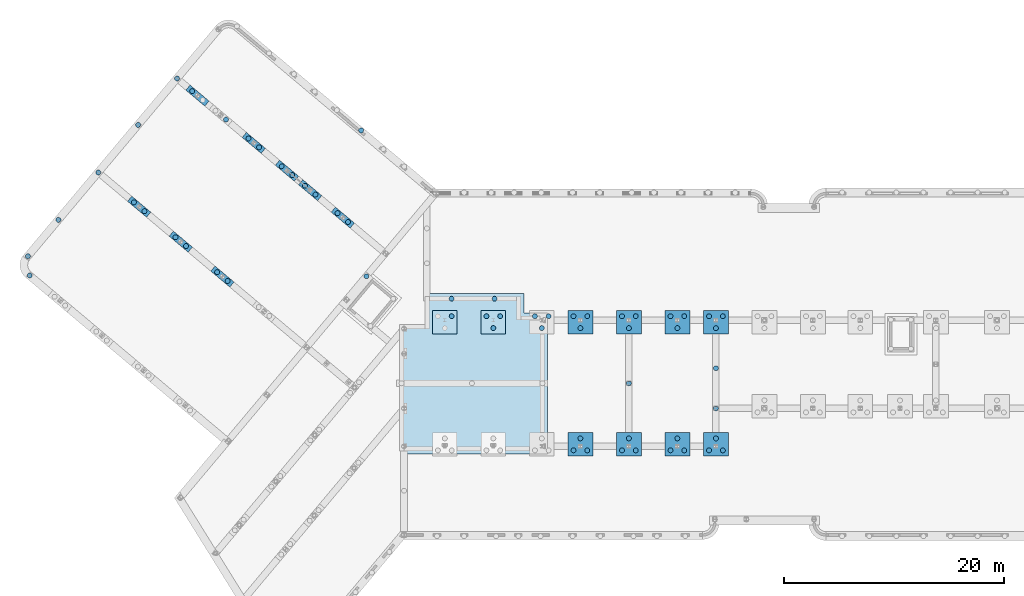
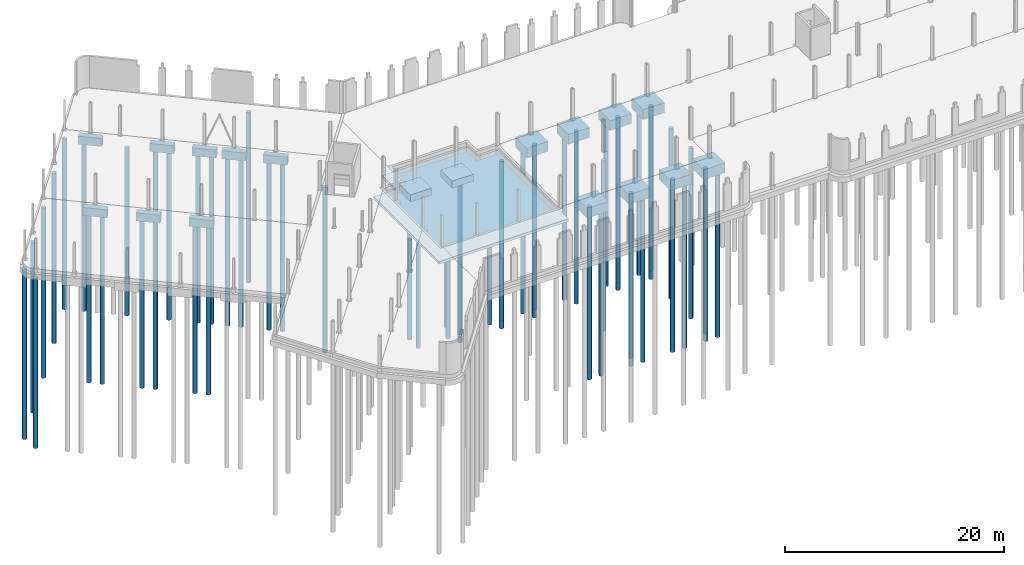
# One storey, part 2 of 26: 60 piles, 19 footings.
"""IFC2X3 building model written with IfcOpenShell, lengths in millimetres."""

from ifc_helpers import new_model, entity, si_unit, converted_unit, derived_unit, direction, frame, frame_2d, origin, origin_2d_with_axis, place, context, subcontext, project, spatial, polyline, rectangle, circle, outline, extrude, source, transform, mapped, material, layer, layer_set, layer_usage, type_object, type_shapes, element, save


model = new_model("IFC2X3")

# Units and contexts
model_context = context("Model", 3, precision=0.01, world=origin(), true_north=direction((6.123031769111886e-17, 1.0)))
body_context = subcontext(model_context, "Body", "Model", "MODEL_VIEW")
ifc_project = project(units=[si_unit("LENGTHUNIT", "METRE", prefix="MILLI"), si_unit("AREAUNIT", "SQUARE_METRE"), si_unit("VOLUMEUNIT", "CUBIC_METRE"), derived_unit("MASSDENSITYUNIT", [(si_unit("MASSUNIT", "GRAM", prefix="KILO"), 1), (si_unit("LENGTHUNIT", "METRE"), -3)]), si_unit("MASSUNIT", "GRAM", prefix="KILO"), converted_unit("PLANEANGLEUNIT", "DEGREE", entity("IfcPlaneAngleMeasure", 0.017453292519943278), si_unit("PLANEANGLEUNIT", "RADIAN"), dimensions=[0, 0, 0, 0, 0, 0, 0])], contexts=[model_context])

# Site, building, storey
site_placement = place(None, origin())
site = spatial("IfcSite", under=ifc_project, at=site_placement, Name="Default", CompositionType="ELEMENT")
building_placement = place(site_placement, origin())
building = spatial("IfcBuilding", under=site, at=building_placement, Name="AT constructie", CompositionType="ELEMENT")
storey_placement = place(building_placement, origin())
storey = spatial("IfcBuildingStorey", under=building, at=storey_placement, Name="00 begane grond", CompositionType="ELEMENT", Elevation=-1.0828671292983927e-12)

# Footings
ifc_material_1 = material(Name="f2_beton ihwg_gen")
ifc_layer = layer(ifc_material_1, 300.0)
ifc_layer_set = layer_set([ifc_layer], Name="Foundation Slab:NLRS_13_SFO_fundatievloer_300_gen_AT")
ifc_layer_usage = layer_usage(ifc_layer_set, "AXIS3", "POSITIVE", 0.0)
type_product_1 = type_object("IfcTypeProduct", Name="NLRS_13_SFO_fundatievloer_300_gen_AT", material=ifc_layer_set)
footing_1_placement = place(storey_placement, origin())
element("IfcFooting", 1, at=footing_1_placement, inside=storey, type_object=type_product_1, material=ifc_layer_usage, Name="Foundation Slab:NLRS_13_SFO_fundatievloer_300_gen_AT", ObjectType="Foundation Slab:NLRS_13_SFO_fundatievloer_300_gen_AT", PredefinedType="NOTDEFINED", context=body_context, shape_type="SweptSolid", body=[
    extrude(outline(polyline([(-9818.749999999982, -6891.249999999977), (2156.2499999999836, -6891.249999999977), (2156.2499999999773, -4546.249999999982), (4706.249999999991, -4546.249999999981), (4706.249999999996, 4653.749999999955), (2956.250000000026, 4653.749999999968), (2956.2500000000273, 6783.7499999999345), (-9818.750000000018, 6783.750000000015), (-9818.749999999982, -6891.249999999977)])), frame((47363.12463111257, 28964.793508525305, -1154.0), z_axis=(0.0, 0.0, -1.0), x_axis=(0.0, 1.0, 0.0)), (0.0, 0.0, 1.0), 300.0),
])
type_product_2 = type_object("IfcTypeProduct", Name="fundatiepoer_gen_lxbxh 2250x600x900", material=ifc_material_1)
shared_shape_1 = source(origin(), body_context, "Body", "SweptSolid", [
    extrude(rectangle(XDim=599.9999999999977, YDim=2249.999999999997, at=frame_2d((-7.105427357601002e-13, 7.958078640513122e-13), x_axis=(1.0, 0.0))), frame((17109.604336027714, 41566.50408462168, -1350.0), z_axis=(0.0, 0.0, 1.0), x_axis=(-0.6427876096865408, -0.7660444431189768, 0.0)), (0.0, 0.0, 1.0), 899.9999999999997),
])
type_shapes(type_product_2, [shared_shape_1])
footing_2_placement = place(storey_placement, origin())
element("IfcFooting", 2, at=footing_2_placement, inside=storey, type_object=type_product_2, material=ifc_material_1, Name="NLRS_16_SFO_fundatiepoer_gen_AT:fundatiepoer_gen_lxbxh 2250x600x900", ObjectType="NLRS_16_SFO_fundatiepoer_gen_AT:fundatiepoer_gen_lxbxh 2250x600x900", PredefinedType="NOTDEFINED", context=body_context, shape_type="MappedRepresentation", body=[
    mapped(shared_shape_1, transform((0.0, 0.0, 0.0), scale=1.0)),
])
type_product_3 = type_object("IfcTypeProduct", Name="fundatiepoer_gen_lxbxh 2250x600x900", material=ifc_material_1)
shared_shape_2 = source(origin(), body_context, "Body", "SweptSolid", [
    extrude(rectangle(XDim=599.9999999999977, YDim=2249.9999999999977, at=frame_2d((-1.3926637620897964e-12, 1.7053025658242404e-12), x_axis=(1.0, 0.0))), frame((20886.203440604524, 38397.561168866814, -1350.0), z_axis=(0.0, 0.0, 1.0), x_axis=(-0.6427876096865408, -0.7660444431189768, 0.0)), (0.0, 0.0, 1.0), 899.9999999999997),
])
type_shapes(type_product_3, [shared_shape_2])
footing_3_placement = place(storey_placement, origin())
element("IfcFooting", 3, at=footing_3_placement, inside=storey, type_object=type_product_3, material=ifc_material_1, Name="NLRS_16_SFO_fundatiepoer_gen_AT:fundatiepoer_gen_lxbxh 2250x600x900", ObjectType="NLRS_16_SFO_fundatiepoer_gen_AT:fundatiepoer_gen_lxbxh 2250x600x900", PredefinedType="NOTDEFINED", context=body_context, shape_type="MappedRepresentation", body=[
    mapped(shared_shape_2, transform((0.0, 0.0, 0.0), scale=1.0)),
])
type_product_4 = type_object("IfcTypeProduct", Name="fundatiepoer_gen_lxbxh 2250x600x900", material=ifc_material_1)
shared_shape_3 = source(origin(), body_context, "Body", "SweptSolid", [
    extrude(rectangle(XDim=600.0000000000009, YDim=2250.000000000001, at=frame_2d((-3.0127011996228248e-12, 3.410605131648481e-13), x_axis=(1.0, 0.0))), frame((24662.80254518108, 35228.61825311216, -1350.0), z_axis=(0.0, 0.0, 1.0), x_axis=(-0.6427876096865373, -0.7660444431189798, 0.0)), (0.0, 0.0, 1.0), 899.9999999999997),
])
type_shapes(type_product_4, [shared_shape_3])
footing_4_placement = place(storey_placement, origin())
element("IfcFooting", 4, at=footing_4_placement, inside=storey, type_object=type_product_4, material=ifc_material_1, Name="NLRS_16_SFO_fundatiepoer_gen_AT:fundatiepoer_gen_lxbxh 2250x600x900", ObjectType="NLRS_16_SFO_fundatiepoer_gen_AT:fundatiepoer_gen_lxbxh 2250x600x900", PredefinedType="NOTDEFINED", context=body_context, shape_type="MappedRepresentation", body=[
    mapped(shared_shape_3, transform((0.0, 0.0, 0.0), scale=1.0)),
])
type_product_5 = type_object("IfcTypeProduct", Name="fundatiepoer_gen_lxbxh 2250x600x900", material=ifc_material_1)
shared_shape_4 = source(origin(), body_context, "Body", "SweptSolid", [
    extrude(rectangle(XDim=599.9999999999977, YDim=2249.999999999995, at=frame_2d((-1.3926637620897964e-12, 1.7053025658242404e-12), x_axis=(1.0, 0.0))), frame((22399.128497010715, 51650.72240585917, -1350.0), z_axis=(0.0, 0.0, 1.0), x_axis=(-0.6427876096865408, -0.7660444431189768, 0.0)), (0.0, 0.0, 1.0), 899.9999999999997),
])
type_shapes(type_product_5, [shared_shape_4])
footing_5_placement = place(storey_placement, origin())
element("IfcFooting", 5, at=footing_5_placement, inside=storey, type_object=type_product_5, material=ifc_material_1, Name="NLRS_16_SFO_fundatiepoer_gen_AT:fundatiepoer_gen_lxbxh 2250x600x900", ObjectType="NLRS_16_SFO_fundatiepoer_gen_AT:fundatiepoer_gen_lxbxh 2250x600x900", PredefinedType="NOTDEFINED", context=body_context, shape_type="MappedRepresentation", body=[
    mapped(shared_shape_4, transform((0.0, 0.0, 0.0), scale=1.0)),
])
type_product_6 = type_object("IfcTypeProduct", Name="fundatiepoer_gen_lxbxh 2250x600x900", material=ifc_material_1)
shared_shape_5 = source(origin(), body_context, "Body", "SweptSolid", [
    extrude(rectangle(XDim=599.9999999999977, YDim=2249.999999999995, at=frame_2d((-1.3926637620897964e-12, 1.7053025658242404e-12), x_axis=(1.0, 0.0))), frame((27512.475154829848, 47360.115111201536, -1350.0), z_axis=(0.0, 0.0, 1.0), x_axis=(-0.6427876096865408, -0.7660444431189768, 0.0)), (0.0, 0.0, 1.0), 899.9999999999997),
])
type_shapes(type_product_6, [shared_shape_5])
footing_6_placement = place(storey_placement, origin())
element("IfcFooting", 6, at=footing_6_placement, inside=storey, type_object=type_product_6, material=ifc_material_1, Name="NLRS_16_SFO_fundatiepoer_gen_AT:fundatiepoer_gen_lxbxh 2250x600x900", ObjectType="NLRS_16_SFO_fundatiepoer_gen_AT:fundatiepoer_gen_lxbxh 2250x600x900", PredefinedType="NOTDEFINED", context=body_context, shape_type="MappedRepresentation", body=[
    mapped(shared_shape_5, transform((0.0, 0.0, 0.0), scale=1.0)),
])
type_product_7 = type_object("IfcTypeProduct", Name="fundatiepoer_gen_lxbxh 2250x600x900", material=ifc_material_1)
shared_shape_6 = source(origin(), body_context, "Body", "SweptSolid", [
    extrude(rectangle(XDim=599.9999999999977, YDim=2249.999999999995, at=frame_2d((-1.3926637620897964e-12, 1.7053025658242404e-12), x_axis=(1.0, 0.0))), frame((30523.028610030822, 44833.960817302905, -1350.0), z_axis=(0.0, 0.0, 1.0), x_axis=(-0.6427876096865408, -0.7660444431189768, 0.0)), (0.0, 0.0, 1.0), 899.9999999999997),
])
type_shapes(type_product_7, [shared_shape_6])
footing_7_placement = place(storey_placement, origin())
element("IfcFooting", 7, at=footing_7_placement, inside=storey, type_object=type_product_7, material=ifc_material_1, Name="NLRS_16_SFO_fundatiepoer_gen_AT:fundatiepoer_gen_lxbxh 2250x600x900", ObjectType="NLRS_16_SFO_fundatiepoer_gen_AT:fundatiepoer_gen_lxbxh 2250x600x900", PredefinedType="NOTDEFINED", context=body_context, shape_type="MappedRepresentation", body=[
    mapped(shared_shape_6, transform((0.0, 0.0, 0.0), scale=1.0)),
])
type_product_8 = type_object("IfcTypeProduct", Name="fundatiepoer_gen_lxbxh 2250x600x900", material=ifc_material_1)
shared_shape_7 = source(origin(), body_context, "Body", "SweptSolid", [
    extrude(rectangle(XDim=599.9999999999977, YDim=2249.999999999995, at=frame_2d((-1.3926637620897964e-12, 1.7053025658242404e-12), x_axis=(1.0, 0.0))), frame((32625.835181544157, 43069.496598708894, -1350.0), z_axis=(0.0, 0.0, 1.0), x_axis=(-0.6427876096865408, -0.7660444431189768, 0.0)), (0.0, 0.0, 1.0), 899.9999999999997),
])
type_shapes(type_product_8, [shared_shape_7])
footing_8_placement = place(storey_placement, origin())
element("IfcFooting", 8, at=footing_8_placement, inside=storey, type_object=type_product_8, material=ifc_material_1, Name="NLRS_16_SFO_fundatiepoer_gen_AT:fundatiepoer_gen_lxbxh 2250x600x900", ObjectType="NLRS_16_SFO_fundatiepoer_gen_AT:fundatiepoer_gen_lxbxh 2250x600x900", PredefinedType="NOTDEFINED", context=body_context, shape_type="MappedRepresentation", body=[
    mapped(shared_shape_7, transform((0.0, 0.0, 0.0), scale=1.0)),
])
type_product_9 = type_object("IfcTypeProduct", Name="fundatiepoer_gen_lxbxh 2250x600x900", material=ifc_material_1)
shared_shape_8 = source(origin(), body_context, "Body", "SweptSolid", [
    extrude(rectangle(XDim=599.9999999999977, YDim=2249.999999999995, at=frame_2d((-1.3926637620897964e-12, 1.7053025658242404e-12), x_axis=(1.0, 0.0))), frame((35590.41380752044, 40581.91976705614, -1350.0), z_axis=(0.0, 0.0, 1.0), x_axis=(-0.6427876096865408, -0.7660444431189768, 0.0)), (0.0, 0.0, 1.0), 899.9999999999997),
])
type_shapes(type_product_9, [shared_shape_8])
footing_9_placement = place(storey_placement, origin())
element("IfcFooting", 9, at=footing_9_placement, inside=storey, type_object=type_product_9, material=ifc_material_1, Name="NLRS_16_SFO_fundatiepoer_gen_AT:fundatiepoer_gen_lxbxh 2250x600x900", ObjectType="NLRS_16_SFO_fundatiepoer_gen_AT:fundatiepoer_gen_lxbxh 2250x600x900", PredefinedType="NOTDEFINED", context=body_context, shape_type="MappedRepresentation", body=[
    mapped(shared_shape_8, transform((0.0, 0.0, 0.0), scale=1.0)),
])
type_product_10 = type_object("IfcTypeProduct", Name="fundatiepoer_gen_lxbxh 2250x2100x1100", material=ifc_material_1)
shared_shape_9 = source(origin(), body_context, "Body", "SweptSolid", [
    extrude(rectangle(XDim=800.0, YDim=2100.0000000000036, at=origin_2d_with_axis()), frame((48121.87463111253, 31081.887426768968, -1854.0), z_axis=(1.0, 0.0, 0.0), x_axis=(0.0, 0.0, 1.0)), (0.0, 0.0, 1.0), 2249.9999999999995),
])
type_shapes(type_product_10, [shared_shape_9])
footing_10_placement = place(storey_placement, origin())
element("IfcFooting", 10, at=footing_10_placement, inside=storey, type_object=type_product_10, material=ifc_material_1, Name="NLRS_16_SFO_fundatiepoer_gen_AT:fundatiepoer_gen_lxbxh 2250x2100x1100", ObjectType="NLRS_16_SFO_fundatiepoer_gen_AT:fundatiepoer_gen_lxbxh 2250x2100x1100", PredefinedType="NOTDEFINED", context=body_context, shape_type="MappedRepresentation", body=[
    mapped(shared_shape_9, transform((0.0, 0.0, 0.0), scale=1.0)),
])

# Piles
ifc_material_2 = material(Name="f2_beton ihwg_C30/37")
type_product_11 = type_object("IfcTypeProduct", Name="Type 4_a-1", material=ifc_material_2)
shared_shape_10 = source(origin(), body_context, "Body", "SweptSolid", [
    extrude(circle(Radius=225.00000000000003, at=frame_2d((1.4426688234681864e-26, -3.634975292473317e-13), x_axis=(1.0, 0.0))), frame((0.0, 0.0, -17816.0)), (0.0, 0.0, 1.0), 17815.999999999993),
])
type_shapes(type_product_11, [shared_shape_10])
for number, where, name in (
    (11, (49871.87463111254, 31631.887426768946, -2234.0), "NLRS_17_SFO_fundatiepaal_rond_gen_AT:Type 4_a-1"),
    (12, (48621.87463111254, 31631.88742676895, -2234.0), "NLRS_17_SFO_fundatiepaal_rond_gen_AT:Type 4_a-1"),
    (13, (49246.87463111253, 30549.355672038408, -2234.0), "NLRS_17_SFO_fundatiepaal_rond_gen_AT:Type 4_a-1"),
    (14, (45471.874631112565, 31631.88742676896, -2234.0), "NLRS_17_SFO_fundatiepaal_rond_gen_AT:Type 4_a-1"),
    (15, (54271.874631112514, 31631.887426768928, -2234.0), "NLRS_17_SFO_fundatiepaal_rond_gen_AT:Type 4_a-1"),
    (16, (53021.874631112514, 31631.887426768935, -2234.0), "NLRS_17_SFO_fundatiepaal_rond_gen_AT:Type 4_a-1"),
    (17, (53646.8746311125, 30549.355672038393, -2234.0), "NLRS_17_SFO_fundatiepaal_rond_gen_AT:Type 4_a-1"),
):
    element("IfcPile", number, at=place(storey_placement, frame(where)), inside=storey, type_object=type_product_11, material=ifc_material_2, Name=name, ObjectType="NLRS_17_SFO_fundatiepaal_rond_gen_AT:Type 4_a-1", PredefinedType="NOTDEFINED", context=body_context, shape_type="MappedRepresentation", body=[
        mapped(shared_shape_10, transform((0.0, 0.0, 0.0), scale=1.0)),
    ])

# Footing
type_product_12 = type_object("IfcTypeProduct", Name="fundatiepoer_gen_lxbxh 2250x2100x1100", material=ifc_material_1)
shared_shape_11 = source(origin(), body_context, "Body", "SweptSolid", [
    extrude(rectangle(XDim=799.9999999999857, YDim=2100.0000000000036, at=frame_2d((-1.4210854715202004e-13, -4.320099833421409e-12), x_axis=(1.0, 0.0))), frame((43721.87463111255, 31081.887426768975, -1854.0), z_axis=(1.0, 0.0, 0.0), x_axis=(0.0, 0.0, 1.0)), (0.0, 0.0, 1.0), 2249.9999999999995),
])
type_shapes(type_product_12, [shared_shape_11])
footing_11_placement = place(storey_placement, origin())
element("IfcFooting", 18, at=footing_11_placement, inside=storey, type_object=type_product_12, material=ifc_material_1, Name="NLRS_16_SFO_fundatiepoer_gen_AT:fundatiepoer_gen_lxbxh 2250x2100x1100", ObjectType="NLRS_16_SFO_fundatiepoer_gen_AT:fundatiepoer_gen_lxbxh 2250x2100x1100", PredefinedType="NOTDEFINED", context=body_context, shape_type="MappedRepresentation", body=[
    mapped(shared_shape_11, transform((0.0, 0.0, 0.0), scale=1.0)),
])

# Piles
type_product_13 = type_object("IfcTypeProduct", Name="Type 4_a-3", material=ifc_material_2)
shared_shape_12 = source(origin(), body_context, "Body", "SweptSolid", [
    extrude(circle(Radius=225.00000000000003, at=frame_2d((1.4426688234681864e-26, -3.634975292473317e-13), x_axis=(1.0, 0.0))), frame((0.0, 0.0, -18420.0)), (0.0, 0.0, 1.0), 18419.999999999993),
])
type_shapes(type_product_13, [shared_shape_12])
for number, where, name in (
    (19, (70071.87463111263, 31631.887426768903, -1630.0), "NLRS_17_SFO_fundatiepaal_rond_gen_AT:Type 4_a-3"),
    (20, (68821.87463111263, 31631.88742676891, -1630.0), "NLRS_17_SFO_fundatiepaal_rond_gen_AT:Type 4_a-3"),
    (21, (69446.87463111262, 30549.355672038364, -1630.0), "NLRS_17_SFO_fundatiepaal_rond_gen_AT:Type 4_a-3"),
    (22, (66571.87463111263, 31631.887426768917, -1630.0), "NLRS_17_SFO_fundatiepaal_rond_gen_AT:Type 4_a-3"),
    (23, (65321.87463111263, 31631.88742676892, -1630.0), "NLRS_17_SFO_fundatiepaal_rond_gen_AT:Type 4_a-3"),
    (24, (65946.87463111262, 30549.35567203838, -1630.0), "NLRS_17_SFO_fundatiepaal_rond_gen_AT:Type 4_a-3"),
    (25, (62171.87463111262, 31631.887426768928, -1630.0), "NLRS_17_SFO_fundatiepaal_rond_gen_AT:Type 4_a-3"),
    (26, (60921.87463111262, 31631.887426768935, -1630.0), "NLRS_17_SFO_fundatiepaal_rond_gen_AT:Type 4_a-3"),
    (27, (61546.87463111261, 30549.355672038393, -1630.0), "NLRS_17_SFO_fundatiepaal_rond_gen_AT:Type 4_a-3"),
    (28, (57771.87463111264, 31631.887426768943, -1630.0), "NLRS_17_SFO_fundatiepaal_rond_gen_AT:Type 4_a-3"),
    (29, (56521.87463111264, 31631.887426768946, -1630.0), "NLRS_17_SFO_fundatiepaal_rond_gen_AT:Type 4_a-3"),
    (30, (57146.87463111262, 30549.355672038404, -1630.0), "NLRS_17_SFO_fundatiepaal_rond_gen_AT:Type 4_a-3"),
):
    element("IfcPile", number, at=place(storey_placement, frame(where)), inside=storey, type_object=type_product_13, material=ifc_material_2, Name=name, ObjectType="NLRS_17_SFO_fundatiepaal_rond_gen_AT:Type 4_a-3", PredefinedType="NOTDEFINED", context=body_context, shape_type="MappedRepresentation", body=[
        mapped(shared_shape_12, transform((0.0, 0.0, 0.0), scale=1.0)),
    ])
for number, where, z_axis, x_axis, name in (
    (31, (68821.8746311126, 19460.19959028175, -1630.0), (0.0, 0.0, 1.0), (-1.0, 0.0, 0.0), "NLRS_17_SFO_fundatiepaal_rond_gen_AT:Type 4_a-3"),
    (32, (70071.8746311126, 19460.19959028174, -1630.0), (0.0, 0.0, 1.0), (-1.0, 0.0, 0.0), "NLRS_17_SFO_fundatiepaal_rond_gen_AT:Type 4_a-3"),
    (33, (69446.8746311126, 20542.731345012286, -1630.0), (0.0, 0.0, 1.0), (-1.0, 0.0, 0.0), "NLRS_17_SFO_fundatiepaal_rond_gen_AT:Type 4_a-3"),
    (34, (65321.874631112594, 19460.199590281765, -1630.0), (0.0, 0.0, 1.0), (-1.0, 0.0, 0.0), "NLRS_17_SFO_fundatiepaal_rond_gen_AT:Type 4_a-3"),
    (35, (66571.8746311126, 19460.19959028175, -1630.0), (0.0, 0.0, 1.0), (-1.0, 0.0, 0.0), "NLRS_17_SFO_fundatiepaal_rond_gen_AT:Type 4_a-3"),
    (36, (65946.8746311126, 20542.7313450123, -1630.0), (0.0, 0.0, 1.0), (-1.0, 0.0, 0.0), "NLRS_17_SFO_fundatiepaal_rond_gen_AT:Type 4_a-3"),
    (37, (60921.87463111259, 19460.19959028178, -1630.0), (0.0, 0.0, 1.0), (-1.0, 0.0, 0.0), "NLRS_17_SFO_fundatiepaal_rond_gen_AT:Type 4_a-3"),
    (38, (62171.8746311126, 19460.199590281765, -1630.0), (0.0, 0.0, 1.0), (-1.0, 0.0, 0.0), "NLRS_17_SFO_fundatiepaal_rond_gen_AT:Type 4_a-3"),
    (39, (61546.8746311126, 20542.73134501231, -1630.0), (0.0, 0.0, 1.0), (-1.0, 0.0, 0.0), "NLRS_17_SFO_fundatiepaal_rond_gen_AT:Type 4_a-3"),
    (40, (56521.8746311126, 19460.19959028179, -1630.0), (0.0, 0.0, 1.0), (-1.0, 0.0, 0.0), "NLRS_17_SFO_fundatiepaal_rond_gen_AT:Type 4_a-3"),
    (41, (57771.87463111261, 19460.19959028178, -1630.0), (0.0, 0.0, 1.0), (-1.0, 0.0, 0.0), "NLRS_17_SFO_fundatiepaal_rond_gen_AT:Type 4_a-3"),
    (42, (57146.874631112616, 20542.731345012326, -1630.0), (0.0, 0.0, 1.0), (-1.0, 0.0, 0.0), "NLRS_17_SFO_fundatiepaal_rond_gen_AT:Type 4_a-3"),
):
    element("IfcPile", number, at=place(storey_placement, frame(where, z_axis=z_axis, x_axis=x_axis)), inside=storey, type_object=type_product_13, material=ifc_material_2, Name=name, ObjectType="NLRS_17_SFO_fundatiepaal_rond_gen_AT:Type 4_a-3", PredefinedType="NOTDEFINED", context=body_context, shape_type="MappedRepresentation", body=[
        mapped(shared_shape_12, transform((0.0, 0.0, 0.0), scale=1.0)),
    ])

# Footings
type_product_14 = type_object("IfcTypeProduct", Name="fundatiepoer_gen_lxbxh 2250x2100x1100", material=ifc_material_1)
shared_shape_13 = source(origin(), body_context, "Body", "SweptSolid", [
    extrude(rectangle(XDim=2249.9999999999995, YDim=2099.999999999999, at=frame_2d((-4.320099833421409e-12, 0.0), x_axis=(1.0, 0.0))), frame((69446.87463111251, 31081.887426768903, -1650.0), z_axis=(0.0, 0.0, 1.0), x_axis=(-1.0, 0.0, 0.0)), (0.0, 0.0, 1.0), 1100.0),
])
type_shapes(type_product_14, [shared_shape_13])
footing_12_placement = place(storey_placement, origin())
element("IfcFooting", 43, at=footing_12_placement, inside=storey, type_object=type_product_14, material=ifc_material_1, Name="NLRS_16_SFO_fundatiepoer_gen_AT:fundatiepoer_gen_lxbxh 2250x2100x1100", ObjectType="NLRS_16_SFO_fundatiepoer_gen_AT:fundatiepoer_gen_lxbxh 2250x2100x1100", PredefinedType="NOTDEFINED", context=body_context, shape_type="MappedRepresentation", body=[
    mapped(shared_shape_13, transform((0.0, 0.0, 0.0), scale=1.0)),
])
type_product_15 = type_object("IfcTypeProduct", Name="fundatiepoer_gen_lxbxh 2250x2100x1100", material=ifc_material_1)
shared_shape_14 = source(origin(), body_context, "Body", "SweptSolid", [
    extrude(rectangle(XDim=2249.9999999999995, YDim=2099.999999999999, at=frame_2d((4.320099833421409e-12, 0.0), x_axis=(1.0, 0.0))), frame((65946.87463111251, 31081.887426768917, -1650.0), z_axis=(0.0, 0.0, 1.0), x_axis=(-1.0, 0.0, 0.0)), (0.0, 0.0, 1.0), 1100.0),
])
type_shapes(type_product_15, [shared_shape_14])
footing_13_placement = place(storey_placement, origin())
element("IfcFooting", 44, at=footing_13_placement, inside=storey, type_object=type_product_15, material=ifc_material_1, Name="NLRS_16_SFO_fundatiepoer_gen_AT:fundatiepoer_gen_lxbxh 2250x2100x1100", ObjectType="NLRS_16_SFO_fundatiepoer_gen_AT:fundatiepoer_gen_lxbxh 2250x2100x1100", PredefinedType="NOTDEFINED", context=body_context, shape_type="MappedRepresentation", body=[
    mapped(shared_shape_14, transform((0.0, 0.0, 0.0), scale=1.0)),
])
type_product_16 = type_object("IfcTypeProduct", Name="fundatiepoer_gen_lxbxh 2250x2100x1100", material=ifc_material_1)
shared_shape_15 = source(origin(), body_context, "Body", "SweptSolid", [
    extrude(rectangle(XDim=2249.9999999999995, YDim=2099.999999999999, at=frame_2d((-4.320099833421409e-12, 4.320099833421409e-12), x_axis=(1.0, 0.0))), frame((61546.87463111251, 31081.887426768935, -1650.0), z_axis=(0.0, 0.0, 1.0), x_axis=(-1.0, 0.0, 0.0)), (0.0, 0.0, 1.0), 1100.0),
])
type_shapes(type_product_16, [shared_shape_15])
footing_14_placement = place(storey_placement, origin())
element("IfcFooting", 45, at=footing_14_placement, inside=storey, type_object=type_product_16, material=ifc_material_1, Name="NLRS_16_SFO_fundatiepoer_gen_AT:fundatiepoer_gen_lxbxh 2250x2100x1100", ObjectType="NLRS_16_SFO_fundatiepoer_gen_AT:fundatiepoer_gen_lxbxh 2250x2100x1100", PredefinedType="NOTDEFINED", context=body_context, shape_type="MappedRepresentation", body=[
    mapped(shared_shape_15, transform((0.0, 0.0, 0.0), scale=1.0)),
])
type_product_17 = type_object("IfcTypeProduct", Name="fundatiepoer_gen_lxbxh 2250x2100x1100", material=ifc_material_1)
shared_shape_16 = source(origin(), body_context, "Body", "SweptSolid", [
    extrude(rectangle(XDim=2249.9999999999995, YDim=2099.999999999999, at=frame_2d((4.320099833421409e-12, 0.0), x_axis=(1.0, 0.0))), frame((57146.87463111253, 31081.887426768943, -1650.0), z_axis=(0.0, 0.0, 1.0), x_axis=(-1.0, 0.0, 0.0)), (0.0, 0.0, 1.0), 1100.0),
])
type_shapes(type_product_17, [shared_shape_16])
footing_15_placement = place(storey_placement, origin())
element("IfcFooting", 46, at=footing_15_placement, inside=storey, type_object=type_product_17, material=ifc_material_1, Name="NLRS_16_SFO_fundatiepoer_gen_AT:fundatiepoer_gen_lxbxh 2250x2100x1100", ObjectType="NLRS_16_SFO_fundatiepoer_gen_AT:fundatiepoer_gen_lxbxh 2250x2100x1100", PredefinedType="NOTDEFINED", context=body_context, shape_type="MappedRepresentation", body=[
    mapped(shared_shape_16, transform((0.0, 0.0, 0.0), scale=1.0)),
])
type_product_18 = type_object("IfcTypeProduct", Name="fundatiepoer_gen_lxbxh 2250x2100x1100", material=ifc_material_1)
shared_shape_17 = source(origin(), body_context, "Body", "SweptSolid", [
    extrude(rectangle(XDim=2249.9999999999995, YDim=2099.999999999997, at=frame_2d((4.433786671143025e-12, -1.0231815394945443e-12), x_axis=(1.0, 0.0))), frame((69446.87463111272, 20010.199590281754, -1650.0)), (0.0, 0.0, 1.0), 1100.0),
])
type_shapes(type_product_18, [shared_shape_17])
footing_16_placement = place(storey_placement, origin())
element("IfcFooting", 47, at=footing_16_placement, inside=storey, type_object=type_product_18, material=ifc_material_1, Name="NLRS_16_SFO_fundatiepoer_gen_AT:fundatiepoer_gen_lxbxh 2250x2100x1100", ObjectType="NLRS_16_SFO_fundatiepoer_gen_AT:fundatiepoer_gen_lxbxh 2250x2100x1100", PredefinedType="NOTDEFINED", context=body_context, shape_type="MappedRepresentation", body=[
    mapped(shared_shape_17, transform((0.0, 0.0, 0.0), scale=1.0)),
])
type_product_19 = type_object("IfcTypeProduct", Name="fundatiepoer_gen_lxbxh 2250x2100x1100", material=ifc_material_1)
shared_shape_18 = source(origin(), body_context, "Body", "SweptSolid", [
    extrude(rectangle(XDim=2249.9999999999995, YDim=2099.999999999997, at=frame_2d((4.433786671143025e-12, -1.0231815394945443e-12), x_axis=(1.0, 0.0))), frame((65946.87463111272, 20010.199590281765, -1650.0)), (0.0, 0.0, 1.0), 1100.0),
])
type_shapes(type_product_19, [shared_shape_18])
footing_17_placement = place(storey_placement, origin())
element("IfcFooting", 48, at=footing_17_placement, inside=storey, type_object=type_product_19, material=ifc_material_1, Name="NLRS_16_SFO_fundatiepoer_gen_AT:fundatiepoer_gen_lxbxh 2250x2100x1100", ObjectType="NLRS_16_SFO_fundatiepoer_gen_AT:fundatiepoer_gen_lxbxh 2250x2100x1100", PredefinedType="NOTDEFINED", context=body_context, shape_type="MappedRepresentation", body=[
    mapped(shared_shape_18, transform((0.0, 0.0, 0.0), scale=1.0)),
])
type_product_20 = type_object("IfcTypeProduct", Name="fundatiepoer_gen_lxbxh 2250x2100x1100", material=ifc_material_1)
shared_shape_19 = source(origin(), body_context, "Body", "SweptSolid", [
    extrude(rectangle(XDim=2249.9999999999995, YDim=2099.999999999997, at=frame_2d((4.433786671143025e-12, 3.296918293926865e-12), x_axis=(1.0, 0.0))), frame((61546.8746311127, 20010.199590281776, -1650.0)), (0.0, 0.0, 1.0), 1100.0),
])
type_shapes(type_product_20, [shared_shape_19])
footing_18_placement = place(storey_placement, origin())
element("IfcFooting", 49, at=footing_18_placement, inside=storey, type_object=type_product_20, material=ifc_material_1, Name="NLRS_16_SFO_fundatiepoer_gen_AT:fundatiepoer_gen_lxbxh 2250x2100x1100", ObjectType="NLRS_16_SFO_fundatiepoer_gen_AT:fundatiepoer_gen_lxbxh 2250x2100x1100", PredefinedType="NOTDEFINED", context=body_context, shape_type="MappedRepresentation", body=[
    mapped(shared_shape_19, transform((0.0, 0.0, 0.0), scale=1.0)),
])
type_product_21 = type_object("IfcTypeProduct", Name="fundatiepoer_gen_lxbxh 2250x2100x1100", material=ifc_material_1)
shared_shape_20 = source(origin(), body_context, "Body", "SweptSolid", [
    extrude(rectangle(XDim=2250.0, YDim=2099.999999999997, at=frame_2d((-4.433786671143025e-12, -1.0231815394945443e-12), x_axis=(1.0, 0.0))), frame((57146.874631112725, 20010.19959028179, -1650.0)), (0.0, 0.0, 1.0), 1100.0),
])
type_shapes(type_product_21, [shared_shape_20])
footing_19_placement = place(storey_placement, origin())
element("IfcFooting", 50, at=footing_19_placement, inside=storey, type_object=type_product_21, material=ifc_material_1, Name="NLRS_16_SFO_fundatiepoer_gen_AT:fundatiepoer_gen_lxbxh 2250x2100x1100", ObjectType="NLRS_16_SFO_fundatiepoer_gen_AT:fundatiepoer_gen_lxbxh 2250x2100x1100", PredefinedType="NOTDEFINED", context=body_context, shape_type="MappedRepresentation", body=[
    mapped(shared_shape_20, transform((0.0, 0.0, 0.0), scale=1.0)),
])

# Piles
type_product_22 = type_object("IfcTypeProduct", Name="Type 4_a-4", material=ifc_material_2)
shared_shape_21 = source(origin(), body_context, "Body", "SweptSolid", [
    extrude(circle(Radius=225.00000000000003, at=frame_2d((1.4426688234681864e-26, -3.634975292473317e-13), x_axis=(1.0, 0.0))), frame((0.0, 0.0, -18520.0)), (0.0, 0.0, 1.0), 18519.999999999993),
])
type_shapes(type_product_22, [shared_shape_21])
pile_placement = place(storey_placement, frame((37722.74241433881, 35258.94610004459, -1530.0), z_axis=(0.0, 0.0, 1.0), x_axis=(0.7660444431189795, -0.6427876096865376, 0.0)))
element("IfcPile", 51, at=pile_placement, inside=storey, type_object=type_product_22, material=ifc_material_2, Name="NLRS_17_SFO_fundatiepaal_rond_gen_AT:Type 4_a-4", ObjectType="NLRS_17_SFO_fundatiepaal_rond_gen_AT:Type 4_a-4", PredefinedType="NOTDEFINED", context=body_context, shape_type="MappedRepresentation", body=[
    mapped(shared_shape_21, transform((0.0, 0.0, 0.0), scale=1.0)),
])
type_product_23 = type_object("IfcTypeProduct", Name="Type 4_a-5", material=ifc_material_2)
shared_shape_22 = source(origin(), body_context, "Body", "SweptSolid", [
    extrude(circle(Radius=225.00000000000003, at=frame_2d((1.4426688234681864e-26, -3.634975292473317e-13), x_axis=(1.0, 0.0))), frame((0.0, 0.0, -18616.0)), (0.0, 0.0, 1.0), 18615.999999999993),
])
type_shapes(type_product_23, [shared_shape_22])
for number, where, name in (
    (52, (45466.874631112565, 33221.04350852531, -1434.0), "NLRS_17_SFO_fundatiepaal_rond_gen_AT:Type 4_a-5"),
    (53, (49366.87463111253, 33221.043508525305, -1434.0), "NLRS_17_SFO_fundatiepaal_rond_gen_AT:Type 4_a-5"),
):
    element("IfcPile", number, at=place(storey_placement, frame(where)), inside=storey, type_object=type_product_23, material=ifc_material_2, Name=name, ObjectType="NLRS_17_SFO_fundatiepaal_rond_gen_AT:Type 4_a-5", PredefinedType="NOTDEFINED", context=body_context, shape_type="MappedRepresentation", body=[
        mapped(shared_shape_22, transform((0.0, 0.0, 0.0), scale=1.0)),
    ])
type_product_24 = type_object("IfcTypeProduct", Name="Type 4_a-6", material=ifc_material_2)
shared_shape_23 = source(origin(), body_context, "Body", "SweptSolid", [
    extrude(circle(Radius=225.00000000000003, at=frame_2d((1.4426688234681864e-26, -3.634975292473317e-13), x_axis=(1.0, 0.0))), frame((0.0, 0.0, -18720.0)), (0.0, 0.0, 1.0), 18719.999999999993),
])
type_shapes(type_product_24, [shared_shape_23])
for number, where, z_axis, x_axis, name in (
    (54, (16630.826559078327, 41968.24634067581, -1330.0), (0.0, 0.0, 1.0), (0.7660444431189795, -0.6427876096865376, 0.0), "NLRS_17_SFO_fundatiepaal_rond_gen_AT:Type 4_a-6"),
    (55, (17588.382112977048, 41164.76182856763, -1330.0), (0.0, 0.0, 1.0), (0.7660444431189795, -0.6427876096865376, 0.0), "NLRS_17_SFO_fundatiepaal_rond_gen_AT:Type 4_a-6"),
    (56, (20407.425663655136, 38799.303424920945, -1330.0), (0.0, 0.0, 1.0), (0.7660444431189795, -0.6427876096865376, 0.0), "NLRS_17_SFO_fundatiepaal_rond_gen_AT:Type 4_a-6"),
    (57, (21364.98121755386, 37995.81891281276, -1330.0), (0.0, 0.0, 1.0), (0.7660444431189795, -0.6427876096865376, 0.0), "NLRS_17_SFO_fundatiepaal_rond_gen_AT:Type 4_a-6"),
    (58, (24184.0247682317, 35630.36050916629, -1330.0), (0.0, 0.0, 1.0), (0.7660444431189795, -0.6427876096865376, 0.0), "NLRS_17_SFO_fundatiepaal_rond_gen_AT:Type 4_a-6"),
    (59, (25141.58032213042, 34826.87599705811, -1330.0), (0.0, 0.0, 1.0), (0.7660444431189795, -0.6427876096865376, 0.0), "NLRS_17_SFO_fundatiepaal_rond_gen_AT:Type 4_a-6"),
    (60, (35111.63603057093, 40983.66202311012, -1330.0), (0.0, 0.0, 1.0), (0.7660444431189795, -0.6427876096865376, 0.0), "NLRS_17_SFO_fundatiepaal_rond_gen_AT:Type 4_a-6"),
    (61, (36069.191584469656, 40180.17751100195, -1330.0), (0.0, 0.0, 1.0), (0.7660444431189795, -0.6427876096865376, 0.0), "NLRS_17_SFO_fundatiepaal_rond_gen_AT:Type 4_a-6"),
    (62, (32147.057404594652, 43471.23885476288, -1330.0), (0.0, 0.0, 1.0), (0.7660444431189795, -0.6427876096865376, 0.0), "NLRS_17_SFO_fundatiepaal_rond_gen_AT:Type 4_a-6"),
    (63, (33104.61295849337, 42667.754342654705, -1330.0), (0.0, 0.0, 1.0), (0.7660444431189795, -0.6427876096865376, 0.0), "NLRS_17_SFO_fundatiepaal_rond_gen_AT:Type 4_a-6"),
    (64, (30044.250833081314, 45235.70307335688, -1330.0), (0.0, 0.0, 1.0), (0.7660444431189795, -0.6427876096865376, 0.0), "NLRS_17_SFO_fundatiepaal_rond_gen_AT:Type 4_a-6"),
    (65, (31001.80638698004, 44432.218561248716, -1330.0), (0.0, 0.0, 1.0), (0.7660444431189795, -0.6427876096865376, 0.0), "NLRS_17_SFO_fundatiepaal_rond_gen_AT:Type 4_a-6"),
    (66, (27033.69737788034, 47761.85736725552, -1330.0), (0.0, 0.0, 1.0), (0.7660444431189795, -0.6427876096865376, 0.0), "NLRS_17_SFO_fundatiepaal_rond_gen_AT:Type 4_a-6"),
    (67, (27991.252931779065, 46958.37285514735, -1330.0), (0.0, 0.0, 1.0), (0.7660444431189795, -0.6427876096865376, 0.0), "NLRS_17_SFO_fundatiepaal_rond_gen_AT:Type 4_a-6"),
    (68, (24988.358714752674, 49478.10028511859, -1330.0), (0.0, 0.0, 1.0), (0.7660444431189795, -0.6427876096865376, 0.0), "NLRS_17_SFO_fundatiepaal_rond_gen_AT:Type 4_a-6"),
    (69, (21920.35072006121, 52052.46466191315, -1330.0), (0.0, 0.0, 1.0), (0.7660444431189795, -0.6427876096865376, 0.0), "NLRS_17_SFO_fundatiepaal_rond_gen_AT:Type 4_a-6"),
):
    element("IfcPile", number, at=place(storey_placement, frame(where, z_axis=z_axis, x_axis=x_axis)), inside=storey, type_object=type_product_24, material=ifc_material_2, Name=name, ObjectType="NLRS_17_SFO_fundatiepaal_rond_gen_AT:Type 4_a-6", PredefinedType="NOTDEFINED", context=body_context, shape_type="MappedRepresentation", body=[
        mapped(shared_shape_23, transform((0.0, 0.0, 0.0), scale=1.0)),
    ])
type_product_25 = type_object("IfcTypeProduct", Name="Type 4_a-7", material=ifc_material_2)
shared_shape_24 = source(origin(), body_context, "Body", "SweptSolid", [
    extrude(circle(Radius=225.00000000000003, at=frame_2d((1.4426688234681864e-26, -3.634975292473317e-13), x_axis=(1.0, 0.0))), frame((0.0, 0.0, -19020.0)), (0.0, 0.0, 1.0), 19019.999999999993),
])
type_shapes(type_product_25, [shared_shape_24])
for number, where, z_axis, x_axis, name in (
    (70, (69446.87463111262, 23271.043508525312, -1030.0), (0.0, 0.0, 1.0), (-1.0, 0.0, 0.0), "NLRS_17_SFO_fundatiepaal_rond_gen_AT:Type 4_a-7"),
    (71, (61546.874631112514, 25546.043508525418, -1030.0), (0.0, 0.0, 1.0), (-1.0, 0.0, 0.0), "NLRS_17_SFO_fundatiepaal_rond_gen_AT:Type 4_a-7"),
    (72, (37251.64499199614, 48489.0082293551, -1030.0), (0.0, 0.0, 1.0), (-0.7660444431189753, 0.6427876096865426, 0.0), "NLRS_17_SFO_fundatiepaal_rond_gen_AT:Type 4_a-7"),
    (73, (20549.081230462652, 53203.09643446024, -1030.0), (0.0, 0.0, 1.0), (-0.7660444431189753, 0.6427876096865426, 0.0), "NLRS_17_SFO_fundatiepaal_rond_gen_AT:Type 4_a-7"),
    (74, (17013.608761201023, 48989.684417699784, -1030.0), (0.0, 0.0, 1.0), (-0.7660444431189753, 0.6427876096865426, 0.0), "NLRS_17_SFO_fundatiepaal_rond_gen_AT:Type 4_a-7"),
    (75, (13398.069048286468, 44680.85197566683, -1030.0), (0.0, 0.0, 1.0), (-0.7660444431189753, 0.6427876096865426, 0.0), "NLRS_17_SFO_fundatiepaal_rond_gen_AT:Type 4_a-7"),
    (76, (9782.248152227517, 40371.68443261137, -1030.0), (0.0, 0.0, 1.0), (-0.7660444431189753, 0.6427876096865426, 0.0), "NLRS_17_SFO_fundatiepaal_rond_gen_AT:Type 4_a-7"),
    (77, (7018.261430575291, 37077.69332719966, -1030.0), (0.0, 0.0, 1.0), (-0.7660444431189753, 0.6427876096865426, 0.0), "NLRS_17_SFO_fundatiepaal_rond_gen_AT:Type 4_a-7"),
    (78, (7181.548554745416, 35335.31371650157, -1030.0), (0.0, 0.0, 1.0), (-0.7660444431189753, 0.6427876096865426, 0.0), "NLRS_17_SFO_fundatiepaal_rond_gen_AT:Type 4_a-7"),
    (79, (69446.87463111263, 26910.1995902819, -1030.0), (0.0, 0.0, 1.0), (-1.0, 0.0, 0.0), "NLRS_17_SFO_fundatiepaal_rond_gen_AT:Type 4_a-7"),
):
    element("IfcPile", number, at=place(storey_placement, frame(where, z_axis=z_axis, x_axis=x_axis)), inside=storey, type_object=type_product_25, material=ifc_material_2, Name=name, ObjectType="NLRS_17_SFO_fundatiepaal_rond_gen_AT:Type 4_a-7", PredefinedType="NOTDEFINED", context=body_context, shape_type="MappedRepresentation", body=[
        mapped(shared_shape_24, transform((0.0, 0.0, 0.0), scale=1.0)),
    ])

save(model, "model.ifc")
